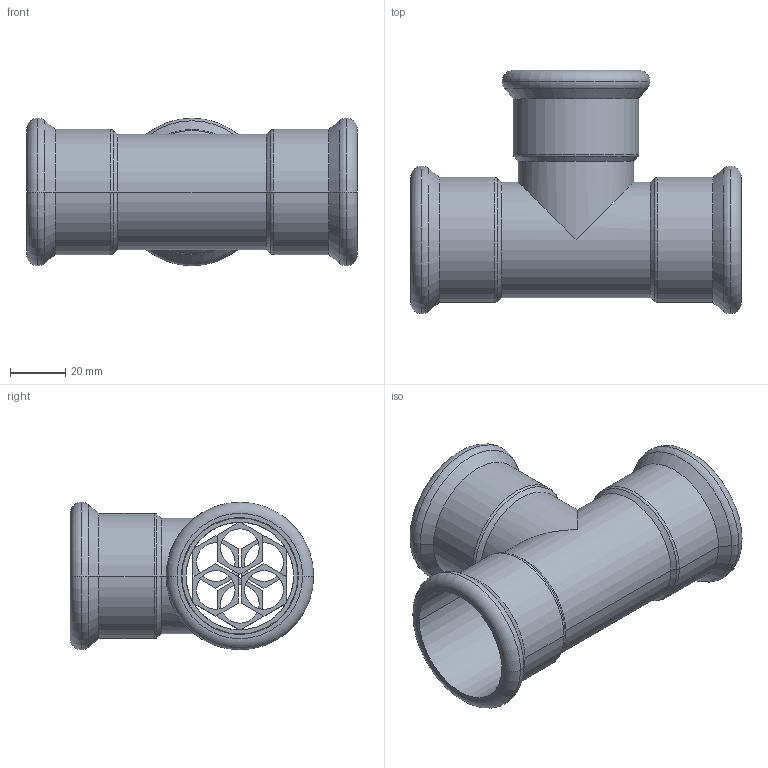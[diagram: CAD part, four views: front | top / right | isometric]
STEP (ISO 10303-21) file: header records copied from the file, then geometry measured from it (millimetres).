
FILE_DESCRIPTION(('OneSpaceDesigner STEP Export'),'2;1');
FILE_NAME('R2714 42x42x42.stp','2010-06-10T 8:42:42',(''),(''),'OneSpace Designer STEP processor for AP214 (Solid Model)','OneSpace Modeling 15.00A 14-Mar-2007 (C) CoCreate Software GmbH','');
FILE_SCHEMA(('AUTOMOTIVE_DESIGN { 1 0 10303 214 1 1 1 1 }'));
Length unit declared in the file: millimetre
Products named in the file (2): R2714_42x42x42
Assembly tree (1 placements, depth 2):
  R2714_42x42x42
    R2714_42x42x42
Bounding box: 120 x 88.28 x 53.55 mm (x, y, z)
Volume: 47423.2 mm3; surface area: 49480.7 mm2
Topology: 1 solids, 1 shells, 173 faces, 438 edges, 281 vertices
Faces by surface type: plane 90, cylinder 53, torus 18, cone 12
Entity records: 4602 total; most frequent: ORIENTED_EDGE 876, CARTESIAN_POINT 752, DIRECTION 679, EDGE_CURVE 438, VERTEX_POINT 281, VECTOR 263, LINE 263, EDGE_LOOP 209
